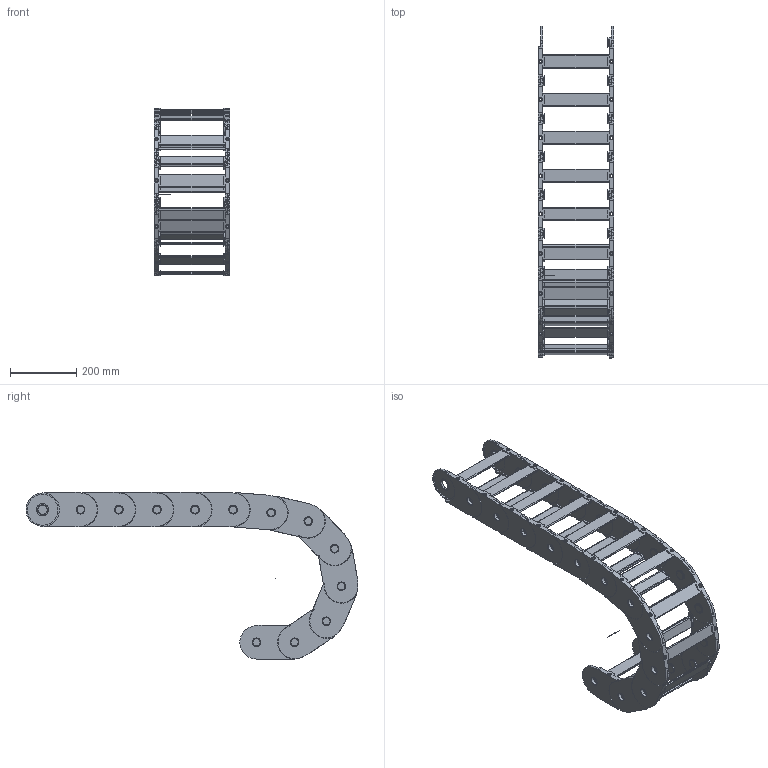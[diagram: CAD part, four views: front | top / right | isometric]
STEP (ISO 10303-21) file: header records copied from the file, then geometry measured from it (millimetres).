
FILE_DESCRIPTION((''),'2;1');
FILE_NAME('C:\Uebbing\TRACE PARTS\PKK\PKK 511\PKK 511 vereinfacht.stp','2013-05-03T14:51:13',('Uebbing'),(''),'Autodesk Inventor 10','Autodesk Inventor 10','');
FILE_SCHEMA(('AUTOMOTIVE_DESIGN { 1 0 10303 214 1 1 1 1 }'));
Length unit declared in the file: millimetre
Products named in the file (3): PKK 511 PARAMETRISCH; Achse; PKK 510 Glied vereinfacht
Assembly tree (13 placements, depth 2):
  PKK 511 PARAMETRISCH
    Achse
    PKK 510 Glied vereinfacht  x12
Bounding box: 228 x 1001.39 x 504 mm (x, y, z)
Volume: 4251587.1 mm3; surface area: 1716337.4 mm2
Topology: 13 solids, 13 shells, 2787 faces, 7132 edges, 4467 vertices
Faces by surface type: cylinder 1249, plane 770, torus 480, bspline 288
Full cylindrical faces by diameter (mm): 1 x1, 8 x24, 24 x24, 30 x48, 37 x48, 93 x48
Entity records: 7303 total; most frequent: CARTESIAN_POINT 1447, DIRECTION 1300, ORIENTED_EDGE 1124, EDGE_CURVE 562, AXIS2_PLACEMENT_3D 511, VERTEX_POINT 368, EDGE_LOOP 286, VECTOR 278
